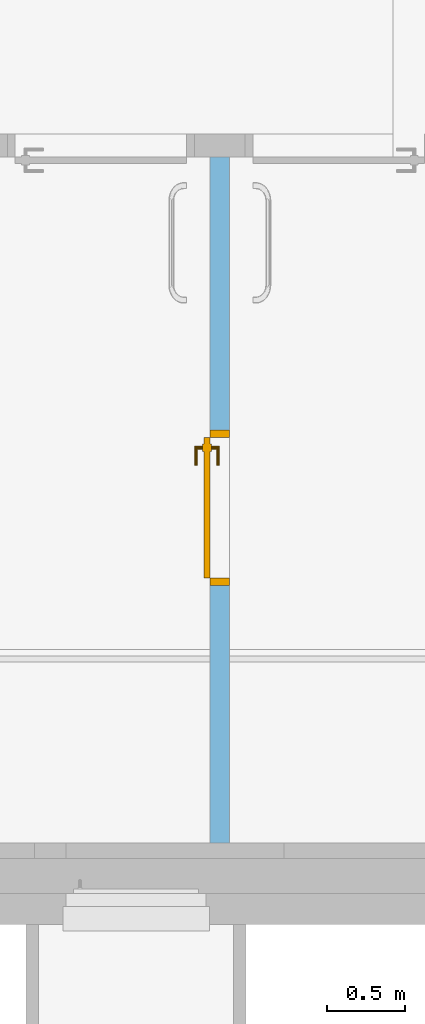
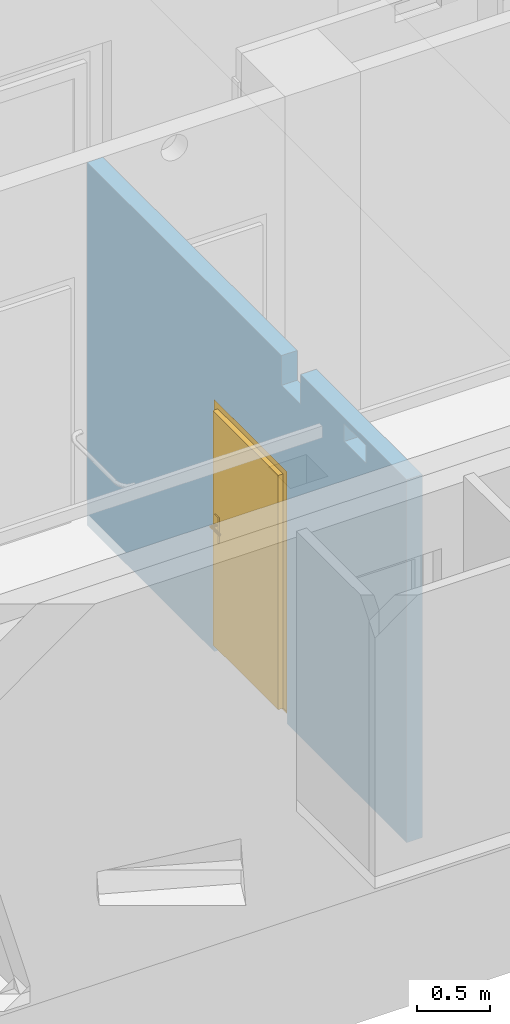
# One storey, part 51 of 84: 1 door, 3 openings, plus 1 element that does not belong to this part.
"""IFC4 building model written with IfcOpenShell, lengths in metres."""

from ifc_helpers import new_model, entity, si_unit, converted_unit, derived_unit, frame, frame_2d, origin, origin_with_axes, place, context, subcontext, project, spatial, polyline, rectangle, outline, extrude, closed_shell, open_shell, surface_model, source, transform, mapped, material, layer, layer_set, layer_usage, type_object, element, fill, save


model = new_model("IFC4")

# Units and contexts
model_context = context("Model", 3, precision=1e-05, world=origin())
body_context = subcontext(model_context, "Body", "Model", "MODEL_VIEW")
ifc_project = project(units=[si_unit("LENGTHUNIT", "METRE"), si_unit("AREAUNIT", "SQUARE_METRE"), si_unit("VOLUMEUNIT", "CUBIC_METRE"), si_unit("MASSUNIT", "GRAM", prefix="KILO"), converted_unit("PLANEANGLEUNIT", "DEGREE", entity("IfcPlaneAngleMeasure", 0.0174532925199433), si_unit("PLANEANGLEUNIT", "RADIAN"), dimensions=[0, 0, 0, 0, 0, 0, 0]), derived_unit("THERMALTRANSMITTANCEUNIT", [(si_unit("POWERUNIT", "WATT"), 1), (si_unit("THERMODYNAMICTEMPERATUREUNIT", "KELVIN"), -1), (si_unit("LENGTHUNIT", "METRE"), -2)]), derived_unit("VOLUMETRICFLOWRATEUNIT", [(si_unit("LENGTHUNIT", "METRE"), 3), (converted_unit("TIMEUNIT", "hour", entity("IfcTimeMeasure", 3600.0), si_unit("TIMEUNIT", "SECOND"), dimensions=[0, 0, 1, 0, 0, 0, 0]), -1), (si_unit("LENGTHUNIT", "METRE"), -1)])], contexts=[model_context])

# Site, building, storey
site_placement = place(None, origin())
site = spatial("IfcSite", under=ifc_project, at=site_placement, Name="3. ASŘ", CompositionType="ELEMENT")
building_placement = place(site_placement, origin())
building = spatial("IfcBuilding", under=site, at=building_placement, Name="Pavilon C", CompositionType="ELEMENT")
storey_placement = place(building_placement, frame((0.0, 0.0, -3.3)))
storey = spatial("IfcBuildingStorey", under=building, at=storey_placement, Name="Půdorys 1.PP", CompositionType="ELEMENT", Elevation=-3.3)

# Wall, openings, door
ifc_material = material(Name="SDK - 1 KCE + DVOJITÉ OPLÁŠTĚNÍ")
ifc_layer = layer(ifc_material, 0.125)
ifc_layer_set = layer_set([ifc_layer])
ifc_layer_usage = layer_usage(ifc_layer_set, "AXIS2", "POSITIVE", 0.0)
wall_placement = place(storey_placement, frame((10.25, 0.700000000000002, -0.1), z_axis=(0.0, 0.0, 1.0), x_axis=(0.0, 1.0, 0.0)))
wall = element("IfcWall", 1, at=wall_placement, inside=storey, material=ifc_layer_usage, Name="SDK - 1 KCE + DVOJITÉ OPLÁŠTĚNÍ", context=body_context, shape_type="SweptSolid", body=[
    extrude(rectangle(XDim=4.4, YDim=0.125, at=frame_2d((2.2, 0.0625), x_axis=(1.0, 0.0))), origin_with_axes(), (0.0, 0.0, 1.0), 3.05),
])
opening_1_placement = place(wall_placement, frame((2.65, 0.125, 0.0), z_axis=(0.0, -1.0, 0.0), x_axis=(0.0, 0.0, 1.0)))
opening_1 = element("IfcOpeningElement", 2, at=opening_1_placement, cuts=wall, Name="Dveřní otvor", ObjectType="Opening", context=body_context, shape_type="SweptSolid", body=[
    extrude(outline(polyline([(0.0, 1.0), (2.12, 1.0), (2.12, 0.0), (0.0, 0.0), (0.0, 1.0)])), origin_with_axes(), (0.0, 0.0, 1.0), 0.125),
])
opening_2_placement = place(wall_placement, frame((0.861971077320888, 0.125, 2.85), z_axis=(0.0, -1.0, 0.0), x_axis=(0.0, 0.0, 1.0)))
element("IfcOpeningElement", 3, at=opening_2_placement, cuts=wall, Name="UT", ObjectType="Opening", context=body_context, shape_type="SweptSolid", body=[
    extrude(outline(polyline([(0.0, 0.3), (0.15, 0.3), (0.15, 0.0), (0.0, 0.0), (0.0, 0.3)])), origin_with_axes(), (0.0, 0.0, 1.0), 0.125),
])
opening_3_placement = place(wall_placement, frame((1.72197111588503, 0.125000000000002, 2.8), z_axis=(0.0, -1.0, 0.0), x_axis=(0.0, 0.0, 1.0)))
element("IfcOpeningElement", 4, at=opening_3_placement, cuts=wall, Name="VZT", ObjectType="Opening", context=body_context, shape_type="SweptSolid", body=[
    extrude(outline(polyline([(0.0, 0.26), (0.25, 0.26), (0.25, 0.0), (0.0, 0.0), (0.0, 0.26)])), origin_with_axes(), (0.0, 0.0, 1.0), 0.125),
])
door_type = type_object("IfcDoorType", Name="I.D026", OperationType="NOTDEFINED", ParameterTakesPrecedence=False, PredefinedType="DOOR")
shared_shape = source(origin_with_axes(), body_context, "Body", "SurfaceModel", [
    surface_model("IfcShellBasedSurfaceModel", [(0.0, 0.0625, 0.0), (1.0, 0.0625, 0.0), (1.0, 0.0625, 0.1), (0.0, 0.0625, 0.1)], [open_shell([[[0, 1, 2, 3]]], orient=[[False]])]),
    surface_model("IfcShellBasedSurfaceModel", [(0.0, 0.125, 2.12), (0.0, 0.125, 0.101), (0.05, 0.125, 0.101), (0.05, 0.125, 2.12), (0.0, 0.0, 0.101), (0.0, 2.41584530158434e-16, 2.12), (0.05, 2.41584530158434e-16, 2.12), (0.05, 0.0, 0.101)], [closed_shell([[[0, 1, 2, 3]], [[4, 5, 6, 7]], [[1, 0, 5, 4]], [[2, 1, 4, 7]], [[3, 2, 7, 6]], [[0, 3, 6, 5]]], orient=[[False], [False], [False], [False], [False], [False]])]),
    surface_model("IfcShellBasedSurfaceModel", [(0.95, 0.125, 2.12), (0.95, 0.125, 0.101), (1.0, 0.125, 0.101), (1.0, 0.125, 2.12), (0.95, 0.0, 0.101), (0.95, 2.41584530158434e-16, 2.12), (1.0, 2.41584530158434e-16, 2.12), (1.0, 0.0, 0.101)], [closed_shell([[[0, 1, 2, 3]], [[4, 5, 6, 7]], [[1, 0, 5, 4]], [[2, 1, 4, 7]], [[3, 2, 7, 6]], [[0, 3, 6, 5]]], orient=[[False], [False], [False], [False], [False], [False]])]),
    surface_model("IfcShellBasedSurfaceModel", [(0.05, 0.125, 2.12), (0.05, 0.125, 2.07), (0.95, 0.125, 2.07), (0.95, 0.125, 2.12), (0.05, 2.41584530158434e-16, 2.07), (0.05, 2.41584530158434e-16, 2.12), (0.95, 2.41584530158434e-16, 2.12), (0.95, 2.41584530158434e-16, 2.07)], [closed_shell([[[0, 1, 2, 3]], [[4, 5, 6, 7]], [[1, 0, 5, 4]], [[2, 1, 4, 7]], [[3, 2, 7, 6]], [[0, 3, 6, 5]]], orient=[[False], [False], [False], [False], [False], [False]])]),
    surface_model("IfcShellBasedSurfaceModel", [(0.05, 0.165, 2.07), (0.05, 0.165, 0.101), (0.95, 0.165, 0.101), (0.95, 0.165, 2.07), (0.05, 0.125, 0.101), (0.05, 0.125, 2.07), (0.95, 0.125, 2.07), (0.95, 0.125, 0.101)], [closed_shell([[[0, 1, 2, 3]], [[4, 5, 6, 7]], [[1, 0, 5, 4]], [[2, 1, 4, 7]], [[3, 2, 7, 6]], [[0, 3, 6, 5]]], orient=[[False], [False], [False], [False], [False], [False]])]),
    surface_model("IfcShellBasedSurfaceModel", [(0.86, 0.125, 1.226), (0.86, 0.125, 1.011), (0.91, 0.125, 1.011), (0.91, 0.125, 1.226), (0.86, 0.115, 1.011), (0.86, 0.115, 1.226), (0.91, 0.115, 1.226), (0.91, 0.115, 1.011)], [closed_shell([[[0, 1, 2, 3]], [[4, 5, 6, 7]], [[1, 0, 5, 4]], [[2, 1, 4, 7]], [[3, 2, 7, 6]], [[0, 3, 6, 5]]], orient=[[False], [False], [False], [False], [False], [False]])]),
    surface_model("IfcShellBasedSurfaceModel", [(0.885, 0.115, 1.161), (0.88, 0.115, 1.15966025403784), (0.876339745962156, 0.115, 1.156), (0.875, 0.115, 1.151), (0.876339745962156, 0.115, 1.146), (0.88, 0.115, 1.14233974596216), (0.885, 0.115, 1.141), (0.89, 0.115, 1.14233974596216), (0.893660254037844, 0.115, 1.146), (0.895, 0.115, 1.151), (0.893660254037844, 0.115, 1.156), (0.89, 0.115, 1.15966025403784), (0.89, 0.0700000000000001, 1.15966025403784), (0.885, 0.0750000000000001, 1.161), (0.893660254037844, 0.0663397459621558, 1.156), (0.895, 0.0650000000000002, 1.151), (0.893660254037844, 0.0663397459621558, 1.146), (0.89, 0.0700000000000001, 1.14233974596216), (0.885, 0.0750000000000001, 1.141), (0.88, 0.0800000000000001, 1.14233974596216), (0.876339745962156, 0.0836602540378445, 1.146), (0.875, 0.0850000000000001, 1.151), (0.876339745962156, 0.0836602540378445, 1.156), (0.88, 0.0800000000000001, 1.15966025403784), (0.77, 0.0700000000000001, 1.15966025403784), (0.77, 0.0750000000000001, 1.161), (0.77, 0.0663397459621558, 1.156), (0.77, 0.0650000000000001, 1.151), (0.77, 0.0663397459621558, 1.146), (0.77, 0.0700000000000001, 1.14233974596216), (0.77, 0.0750000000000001, 1.141), (0.77, 0.0800000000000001, 1.14233974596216), (0.77, 0.0836602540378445, 1.146), (0.77, 0.0850000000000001, 1.151), (0.77, 0.0836602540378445, 1.156), (0.77, 0.0800000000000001, 1.15966025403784)], [open_shell([[[0, 1, 2, 3, 4, 5, 6, 7, 8, 9, 10, 11]], [[0, 11, 12, 13]], [[11, 10, 14, 12]], [[10, 9, 15, 14]], [[9, 8, 16, 15]], [[8, 7, 17, 16]], [[7, 6, 18, 17]], [[6, 5, 19, 18]], [[5, 4, 20, 19]], [[4, 3, 21, 20]], [[3, 2, 22, 21]], [[2, 1, 23, 22]], [[1, 0, 13, 23]], [[13, 12, 24, 25]], [[12, 14, 26, 24]], [[14, 15, 27, 26]], [[15, 16, 28, 27]], [[16, 17, 29, 28]], [[17, 18, 30, 29]], [[18, 19, 31, 30]], [[19, 20, 32, 31]], [[20, 21, 33, 32]], [[21, 22, 34, 33]], [[22, 23, 35, 34]], [[23, 13, 25, 35]]], orient=[[False], [False], [False], [False], [False], [False], [False], [False], [False], [False], [False], [False], [False], [False], [False], [False], [False], [False], [False], [False], [False], [False], [False], [False], [False]])]),
    surface_model("IfcShellBasedSurfaceModel", [(0.86, 0.165, 1.226), (0.91, 0.165, 1.226), (0.91, 0.165, 1.011), (0.86, 0.165, 1.011), (0.86, 0.175, 1.011), (0.91, 0.175, 1.011), (0.91, 0.175, 1.226), (0.86, 0.175, 1.226)], [closed_shell([[[0, 1, 2, 3]], [[4, 5, 6, 7]], [[3, 4, 7, 0]], [[2, 5, 4, 3]], [[1, 6, 5, 2]], [[0, 7, 6, 1]]], orient=[[False], [False], [False], [False], [False], [False]])]),
    surface_model("IfcShellBasedSurfaceModel", [(0.885, 0.175, 1.161), (0.89, 0.175, 1.15966025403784), (0.893660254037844, 0.175, 1.156), (0.895, 0.175, 1.151), (0.893660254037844, 0.175, 1.146), (0.89, 0.175, 1.14233974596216), (0.885, 0.175, 1.141), (0.88, 0.175, 1.14233974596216), (0.876339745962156, 0.175, 1.146), (0.875, 0.175, 1.151), (0.876339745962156, 0.175, 1.156), (0.88, 0.175, 1.15966025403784), (0.885, 0.215, 1.161), (0.89, 0.22, 1.15966025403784), (0.893660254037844, 0.223660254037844, 1.156), (0.895, 0.225, 1.151), (0.893660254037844, 0.223660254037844, 1.146), (0.89, 0.22, 1.14233974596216), (0.885, 0.215, 1.141), (0.88, 0.21, 1.14233974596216), (0.876339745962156, 0.206339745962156, 1.146), (0.875, 0.205, 1.151), (0.876339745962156, 0.206339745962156, 1.156), (0.88, 0.21, 1.15966025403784), (0.77, 0.215, 1.161), (0.77, 0.22, 1.15966025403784), (0.77, 0.223660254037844, 1.156), (0.77, 0.225, 1.151), (0.77, 0.223660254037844, 1.146), (0.77, 0.22, 1.14233974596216), (0.77, 0.215, 1.141), (0.77, 0.21, 1.14233974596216), (0.77, 0.206339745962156, 1.146), (0.77, 0.205, 1.151), (0.77, 0.206339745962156, 1.156), (0.77, 0.21, 1.15966025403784)], [open_shell([[[0, 1, 2, 3, 4, 5, 6, 7, 8, 9, 10, 11]], [[0, 12, 13, 1]], [[1, 13, 14, 2]], [[2, 14, 15, 3]], [[3, 15, 16, 4]], [[4, 16, 17, 5]], [[5, 17, 18, 6]], [[6, 18, 19, 7]], [[7, 19, 20, 8]], [[8, 20, 21, 9]], [[9, 21, 22, 10]], [[10, 22, 23, 11]], [[11, 23, 12, 0]], [[12, 24, 25, 13]], [[13, 25, 26, 14]], [[14, 26, 27, 15]], [[15, 27, 28, 16]], [[16, 28, 29, 17]], [[17, 29, 30, 18]], [[18, 30, 31, 19]], [[19, 31, 32, 20]], [[20, 32, 33, 21]], [[21, 33, 34, 22]], [[22, 34, 35, 23]], [[23, 35, 24, 12]]], orient=[[False], [False], [False], [False], [False], [False], [False], [False], [False], [False], [False], [False], [False], [False], [False], [False], [False], [False], [False], [False], [False], [False], [False], [False], [False]])]),
])
door_placement = place(opening_1_placement, frame((0.0, 1.0, 0.124999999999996), z_axis=(1.0, 0.0, 0.0), x_axis=(0.0, -1.0, 1.22464679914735e-16)))
door = element("IfcDoor", 5, at=door_placement, inside=storey, type_object=door_type, Name="I.D026", OverallHeight=2.12, OverallWidth=1.0, context=body_context, shape_type="MappedRepresentation", body=[
    mapped(shared_shape, transform((0.0, 0.0, 0.0), x_axis=(1.0, 0.0, 0.0), y_axis=(0.0, 1.0, 0.0), z_axis=(0.0, 0.0, 1.0), scale=1.0)),
])
fill(opening_1, door)

save(model, "model.ifc")
